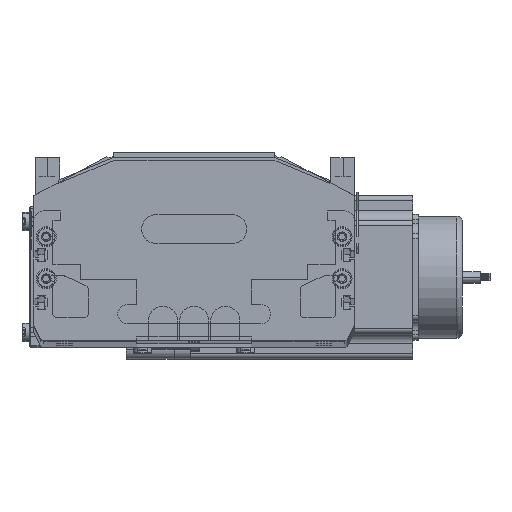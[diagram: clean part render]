
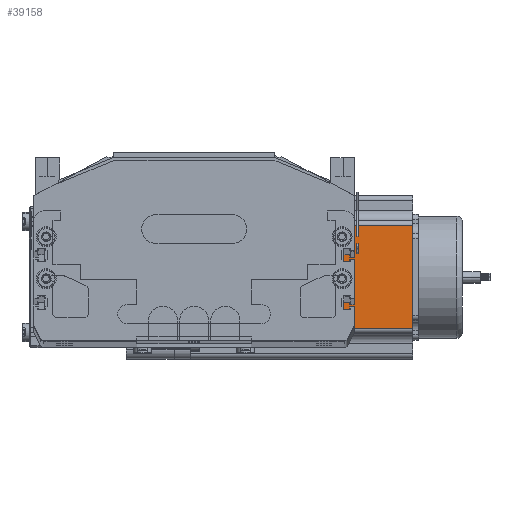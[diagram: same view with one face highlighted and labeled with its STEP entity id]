
A CAD part, top view. The second image highlights one B-rep face of the part: STEP entity #39158.
In plain terms, the highlighted planar face has unit normal (0, 0, 1) as drawn and (0, -1, 0) by its records, which use the part's own axes.
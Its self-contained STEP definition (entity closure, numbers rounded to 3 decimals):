
#3276 = CARTESIAN_POINT ( 'NONE',  ( 16.16, 0., 0. ) ) ;
#3520 = DIRECTION ( 'NONE',  ( 1., 0., 0. ) ) ;
#3521 = VECTOR ( 'NONE', #3520, 1000. ) ;
#3522 = CARTESIAN_POINT ( 'NONE',  ( 0., 0., 116.5 ) ) ;
#3524 = LINE ( 'NONE', #3522, #3521 ) ;
#3537 = DIRECTION ( 'NONE',  ( 1., 0., 0. ) ) ;
#3538 = VECTOR ( 'NONE', #3537, 1000. ) ;
#3539 = CARTESIAN_POINT ( 'NONE',  ( 0., 0., 0. ) ) ;
#3729 = CARTESIAN_POINT ( 'NONE',  ( 16.16, 0., 116.5 ) ) ;
#3732 = DIRECTION ( 'NONE',  ( 0., 0., 1. ) ) ;
#3745 = LINE ( 'NONE', #3539, #3538 ) ;
#3746 = VECTOR ( 'NONE', #3732, 1000. ) ;
#3747 = DIRECTION ( 'NONE',  ( 0., 0., 1. ) ) ;
#3750 = CARTESIAN_POINT ( 'NONE',  ( 69.74, 0., 116.5 ) ) ;
#3751 = LINE ( 'NONE', #3750, #3746 ) ;
#3755 = DIRECTION ( 'NONE',  ( 0., 1., 0. ) ) ;
#3758 = FACE_OUTER_BOUND ( 'NONE', #39314, .T. ) ;
#3759 = CARTESIAN_POINT ( 'NONE',  ( 69.74, 0., 0. ) ) ;
#3783 = DIRECTION ( 'NONE',  ( 0., 0., -1. ) ) ;
#3784 = VECTOR ( 'NONE', #3783, 1000. ) ;
#3796 = CARTESIAN_POINT ( 'NONE',  ( 16.16, 0., 116.5 ) ) ;
#3797 = LINE ( 'NONE', #3796, #3784 ) ;
#3859 = PLANE ( 'NONE',  #3872 ) ;
#3860 = CARTESIAN_POINT ( 'NONE',  ( 0., 0., 116.5 ) ) ;
#3872 = AXIS2_PLACEMENT_3D ( 'NONE', #3860, #3755, #3747 ) ;
#39103 = VERTEX_POINT ( 'NONE', #3276 ) ;
#39114 = EDGE_CURVE ( 'NONE', #39176, #39103, #3797, .T. ) ;
#39120 = ORIENTED_EDGE ( 'NONE', *, *, #39114, .T. ) ;
#39158 = ADVANCED_FACE ( 'NONE', ( #3758 ), #3859, .F. ) ;
#39160 = VERTEX_POINT ( 'NONE', #3759 ) ;
#39163 = EDGE_CURVE ( 'NONE', #39160, #44958, #3751, .T. ) ;
#39166 = EDGE_CURVE ( 'NONE', #39103, #39160, #3745, .T. ) ;
#39168 = ORIENTED_EDGE ( 'NONE', *, *, #39172, .F. ) ;
#39170 = ORIENTED_EDGE ( 'NONE', *, *, #39163, .T. ) ;
#39172 = EDGE_CURVE ( 'NONE', #39176, #44958, #3524, .T. ) ;
#39176 = VERTEX_POINT ( 'NONE', #3729 ) ;
#39305 = ORIENTED_EDGE ( 'NONE', *, *, #39166, .T. ) ;
#39314 = EDGE_LOOP ( 'NONE', ( #39305, #39170, #39168, #39120 ) ) ;
#44958 = VERTEX_POINT ( 'NONE', #82823 ) ;
#82823 = CARTESIAN_POINT ( 'NONE',  ( 69.74, 0., 116.5 ) ) ;
